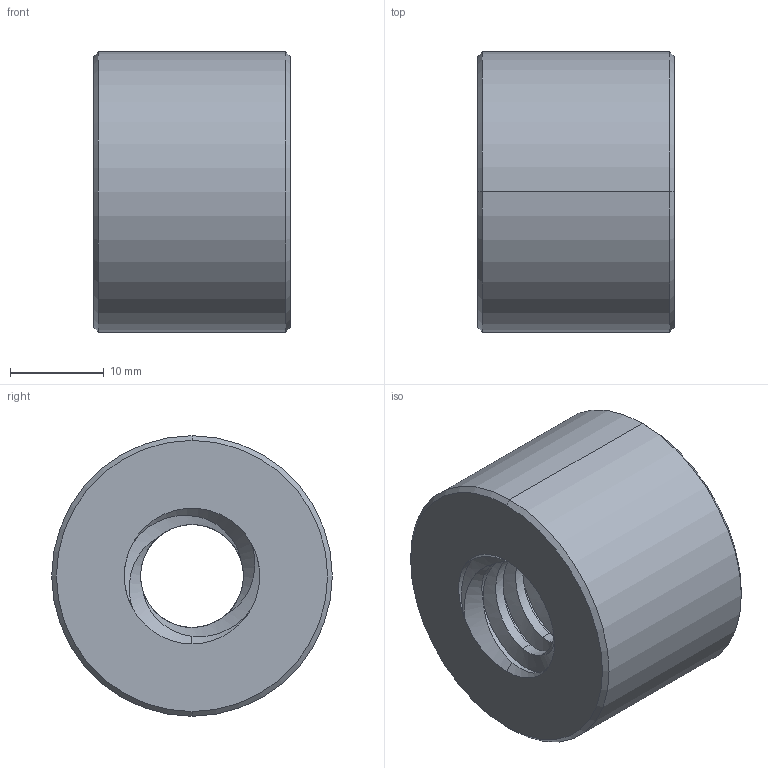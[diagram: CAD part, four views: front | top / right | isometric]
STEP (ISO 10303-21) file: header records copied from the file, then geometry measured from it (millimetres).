
FILE_DESCRIPTION((''),'2;1');
FILE_NAME('711-014-1105_PRT','2024-03-23T',('Brieden'),('ib-brieden'),'PRO/ENGINEER BY PARAMETRIC TECHNOLOGY CORPORATION, 2010160','PRO/ENGINEER BY PARAMETRIC TECHNOLOGY CORPORATION, 2010160','');
FILE_SCHEMA(('AUTOMOTIVE_DESIGN { 1 0 10303 214 1 1 1 1 }'));
Length unit declared in the file: millimetre
Products named in the file (1): 711-014-1105_PRT
Bounding box: 21 x 30 x 30 mm (x, y, z)
Volume: 12076.9 mm3; surface area: 4585.6 mm2
Topology: 1 solids, 1 shells, 38 faces, 88 edges, 52 vertices
Faces by surface type: cylinder 14, bspline 12, cone 10, plane 2
Entity records: 3500 total; most frequent: CARTESIAN_POINT 2693, ORIENTED_EDGE 176, DIRECTION 112, EDGE_CURVE 88, VERTEX_POINT 52, B_SPLINE_CURVE_WITH_KNOTS 46, AXIS2_PLACEMENT_3D 44, EDGE_LOOP 40
